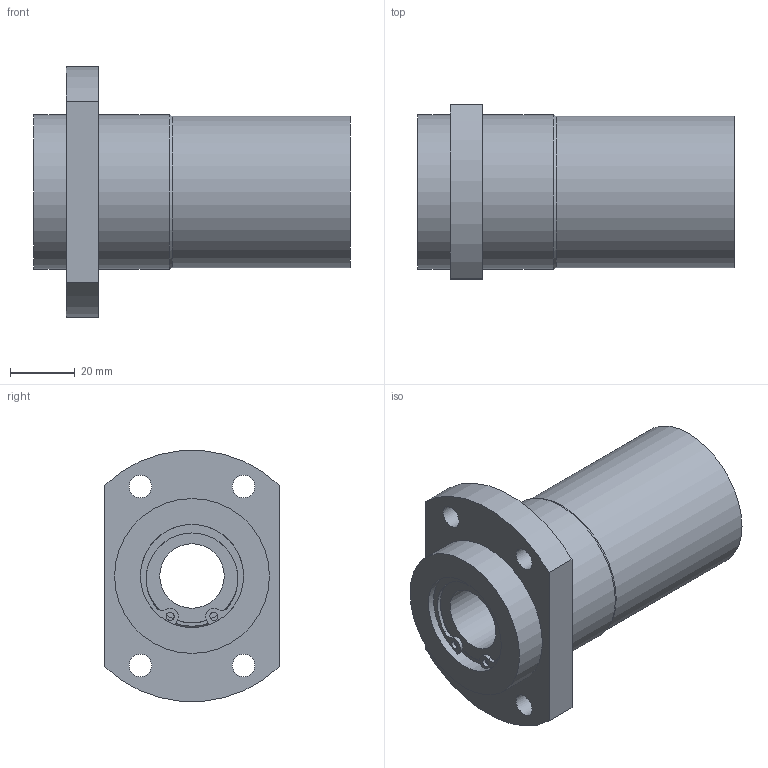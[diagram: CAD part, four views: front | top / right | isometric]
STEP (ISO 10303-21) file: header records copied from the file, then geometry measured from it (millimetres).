
FILE_DESCRIPTION((''),'2;1');
FILE_NAME('C:\Documents and Settings\土屋\My Documents\土屋移動用フォルダ\製品 (図面)\カタログ用3D\変換ファイル\OZAK_3D-CAD(STEP形式)\Part1.-Linear Bearings_ﾘﾆｱﾍﾞｱﾘﾝｸﾞ\09_Maintenance Free_ﾒｲﾝﾃﾅﾝｽﾌﾘｰ\L2017-09-22T13:31:49','2017-09-22T13:31:49',('y'),(''),'Autodesk Inventor 11','Autodesk Inventor 11','');
FILE_SCHEMA(('AUTOMOTIVE_DESIGN { 1 0 10303 214 1 1 1 1 }'));
Length unit declared in the file: millimetre
Products named in the file (1): LFWB20MF
Bounding box: 98 x 54 x 77.72 mm (x, y, z)
Volume: 157853.8 mm3; surface area: 31079.8 mm2
Topology: 1 solids, 3 shells, 71 faces, 183 edges, 114 vertices
Faces by surface type: plane 29, cylinder 25, bspline 14, torus 2, cone 1
Full cylindrical faces by diameter (mm): 2.5 x2, 7 x4, 20 x1, 29 x2, 30.3 x2, 32 x4, 47 x1, 48 x2
Entity records: 2080 total; most frequent: CARTESIAN_POINT 452, DIRECTION 360, ORIENTED_EDGE 284, AXIS2_PLACEMENT_3D 160, EDGE_CURVE 142, EDGE_LOOP 118, CIRCLE 102, VERTEX_POINT 98
